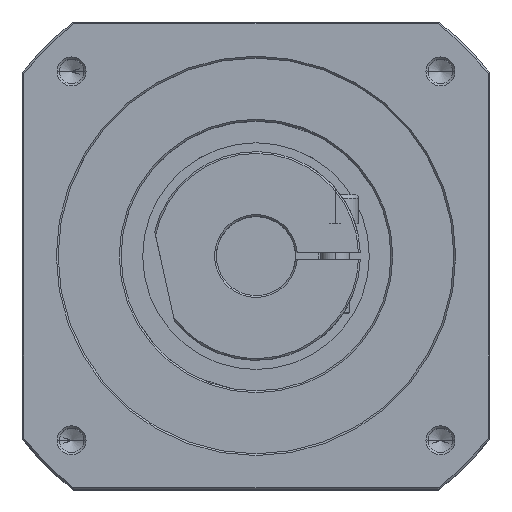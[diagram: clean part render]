
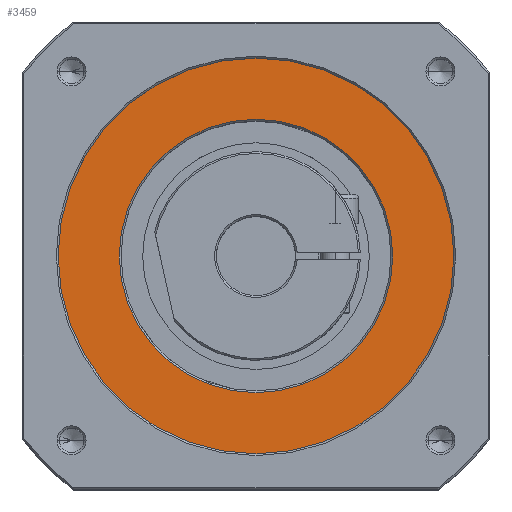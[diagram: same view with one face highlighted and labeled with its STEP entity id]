
A CAD part, top view. The second image highlights one B-rep face of the part: STEP entity #3459.
In plain terms, the highlighted planar face has unit normal (0, 0, 1).
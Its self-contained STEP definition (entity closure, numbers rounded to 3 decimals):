
#15 = DIRECTION ( 'NONE',  ( 0., 0., 1. ) ) ;
#25 = DIRECTION ( 'NONE',  ( 1., 0., 0. ) ) ;
#35 = DIRECTION ( 'NONE',  ( 0., 0., 1. ) ) ;
#199 = ORIENTED_EDGE ( 'NONE', *, *, #3920, .T. ) ;
#338 = CARTESIAN_POINT ( 'NONE',  ( -38., 0., 173. ) ) ;
#573 = CARTESIAN_POINT ( 'NONE',  ( 0., 0., 173. ) ) ;
#635 = CARTESIAN_POINT ( 'NONE',  ( 0., 0., 173. ) ) ;
#975 = CARTESIAN_POINT ( 'NONE',  ( 0., 0., 173. ) ) ;
#1094 = DIRECTION ( 'NONE',  ( 1., 0., 0. ) ) ;
#1130 = AXIS2_PLACEMENT_3D ( 'NONE', #573, #4215, #1094 ) ;
#1138 = AXIS2_PLACEMENT_3D ( 'NONE', #5210, #5268, #5236 ) ;
#1149 = DIRECTION ( 'NONE',  ( 1., 0., 0. ) ) ;
#1365 = EDGE_LOOP ( 'NONE', ( #1836, #199 ) ) ;
#1700 = EDGE_CURVE ( 'NONE', #2705, #5680, #4813, .T. ) ;
#1836 = ORIENTED_EDGE ( 'NONE', *, *, #5589, .T. ) ;
#1873 = CIRCLE ( 'NONE', #2185, 55. ) ;
#2185 = AXIS2_PLACEMENT_3D ( 'NONE', #635, #4268, #1149 ) ;
#2562 = ORIENTED_EDGE ( 'NONE', *, *, #1700, .T. ) ;
#2705 = VERTEX_POINT ( 'NONE', #338 ) ;
#2763 = FACE_OUTER_BOUND ( 'NONE', #1365, .T. ) ;
#2870 = CIRCLE ( 'NONE', #1130, 38. ) ;
#2935 = FACE_BOUND ( 'NONE', #4217, .T. ) ;
#3129 = CARTESIAN_POINT ( 'NONE',  ( 0., 0., 173. ) ) ;
#3276 = AXIS2_PLACEMENT_3D ( 'NONE', #975, #35, #25 ) ;
#3459 = ADVANCED_FACE ( 'NONE', ( #2935, #2763 ), #5884, .T. ) ;
#3662 = DIRECTION ( 'NONE',  ( 1., 0., 0. ) ) ;
#3920 = EDGE_CURVE ( 'NONE', #4744, #5023, #5302, .T. ) ;
#3967 = ORIENTED_EDGE ( 'NONE', *, *, #4546, .T. ) ;
#4215 = DIRECTION ( 'NONE',  ( 0., 0., -1. ) ) ;
#4217 = EDGE_LOOP ( 'NONE', ( #3967, #2562 ) ) ;
#4268 = DIRECTION ( 'NONE',  ( 0., 0., 1. ) ) ;
#4546 = EDGE_CURVE ( 'NONE', #5680, #2705, #2870, .T. ) ;
#4744 = VERTEX_POINT ( 'NONE', #5516 ) ;
#4813 = CIRCLE ( 'NONE', #1138, 38. ) ;
#5023 = VERTEX_POINT ( 'NONE', #5791 ) ;
#5210 = CARTESIAN_POINT ( 'NONE',  ( 0., 0., 173. ) ) ;
#5236 = DIRECTION ( 'NONE',  ( 1., 0., 0. ) ) ;
#5268 = DIRECTION ( 'NONE',  ( 0., 0., -1. ) ) ;
#5302 = CIRCLE ( 'NONE', #5842, 55. ) ;
#5516 = CARTESIAN_POINT ( 'NONE',  ( -55., 0., 173. ) ) ;
#5589 = EDGE_CURVE ( 'NONE', #5023, #4744, #1873, .T. ) ;
#5680 = VERTEX_POINT ( 'NONE', #6392 ) ;
#5791 = CARTESIAN_POINT ( 'NONE',  ( 55., 0., 173. ) ) ;
#5842 = AXIS2_PLACEMENT_3D ( 'NONE', #3129, #15, #3662 ) ;
#5884 = PLANE ( 'NONE',  #3276 ) ;
#6392 = CARTESIAN_POINT ( 'NONE',  ( 38., 0., 173. ) ) ;
